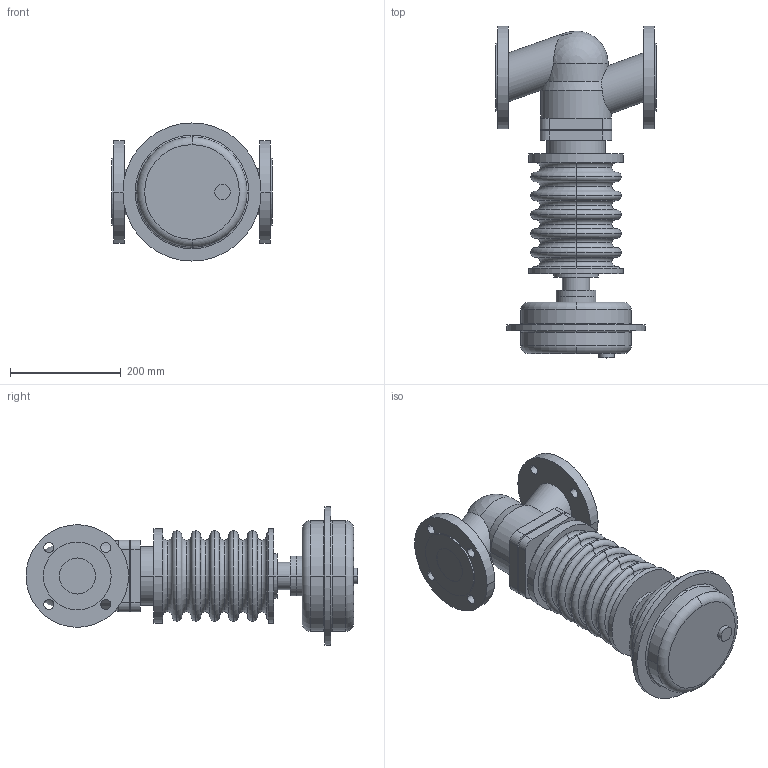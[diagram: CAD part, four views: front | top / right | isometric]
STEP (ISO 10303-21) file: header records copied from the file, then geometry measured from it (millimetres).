
FILE_DESCRIPTION( ( '' ), '1' );
FILE_NAME( 'F:/DE-SHS/TB/OR/04-Sonstiges/daten/files_3d/PREDU/PREDU-PN16-DMA250/c000005357.stp', '2014-06-03T11:13:15', ( '' ), ( '' ), ' ', ' ', ' ' );
FILE_SCHEMA( ( 'CONFIG_CONTROL_DESIGN' ) );
Length unit declared in the file: millimetre
Products named in the file (2): 1; 2
Bounding box: 290 x 598.5 x 249 mm (x, y, z)
Volume: 11239424.4 mm3; surface area: 626930.9 mm2
Topology: 2 solids, 2 shells, 173 faces, 413 edges, 265 vertices
Faces by surface type: cylinder 68, torus 54, plane 48, cone 2, sphere 1
Entity records: 5757 total; most frequent: CARTESIAN_POINT 1390, DIRECTION 1022, ORIENTED_EDGE 822, AXIS2_PLACEMENT_3D 448, EDGE_CURVE 411, CIRCLE 267, VERTEX_POINT 265, EDGE_LOOP 212
